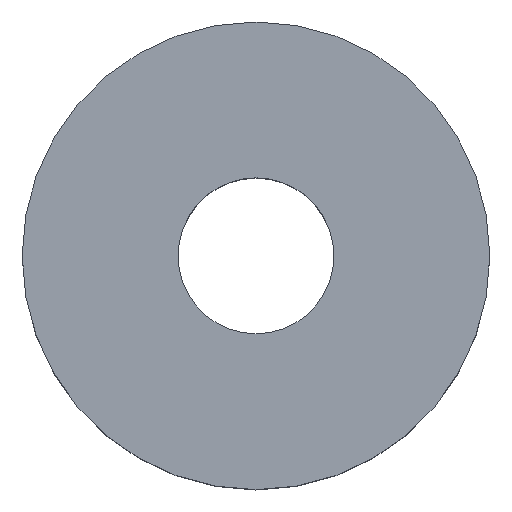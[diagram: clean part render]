
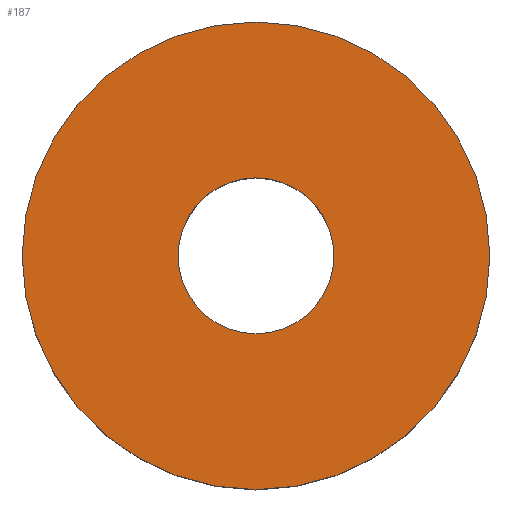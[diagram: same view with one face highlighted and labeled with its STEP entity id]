
A CAD part, top view. The second image highlights one B-rep face of the part: STEP entity #187.
In plain terms, the highlighted planar face has unit normal (0, 0, 1).
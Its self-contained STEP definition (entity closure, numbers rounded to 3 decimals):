
#132=CARTESIAN_POINT('',(2.0,0.,2.45));
#133=VERTEX_POINT('',#132);
#134=CARTESIAN_POINT('',(0.0,0.0,2.45));
#135=DIRECTION('',(0.0,0.0,-1.0));
#136=DIRECTION('',(-1.0,0.0,0.0));
#137=AXIS2_PLACEMENT_3D('',#134,#135,#136);
#138=CIRCLE('',#137,2.0);
#139=EDGE_CURVE('',#133,#133,#138,.T.);
#164=CARTESIAN_POINT('',(6.,0.,2.45));
#165=VERTEX_POINT('',#164);
#166=CARTESIAN_POINT('',(0.0,0.0,2.45));
#167=DIRECTION('',(0.0,0.0,-1.0));
#168=DIRECTION('',(-1.0,0.0,0.0));
#169=AXIS2_PLACEMENT_3D('',#166,#167,#168);
#170=CIRCLE('',#169,6.);
#171=EDGE_CURVE('',#165,#165,#170,.T.);
#176=CARTESIAN_POINT('',(0.0,0.0,2.45));
#177=DIRECTION('',(0.0,0.0,-1.0));
#178=DIRECTION('',(-1.0,0.0,0.0));
#179=AXIS2_PLACEMENT_3D('',#176,#177,#178);
#180=PLANE('',#179);
#181=ORIENTED_EDGE('',*,*,#171,.F.);
#182=EDGE_LOOP('',(#181));
#183=FACE_OUTER_BOUND('',#182,.T.);
#184=ORIENTED_EDGE('',*,*,#139,.T.);
#185=EDGE_LOOP('',(#184));
#186=FACE_BOUND('',#185,.T.);
#187=ADVANCED_FACE('',(#183,#186),#180,.F.);
